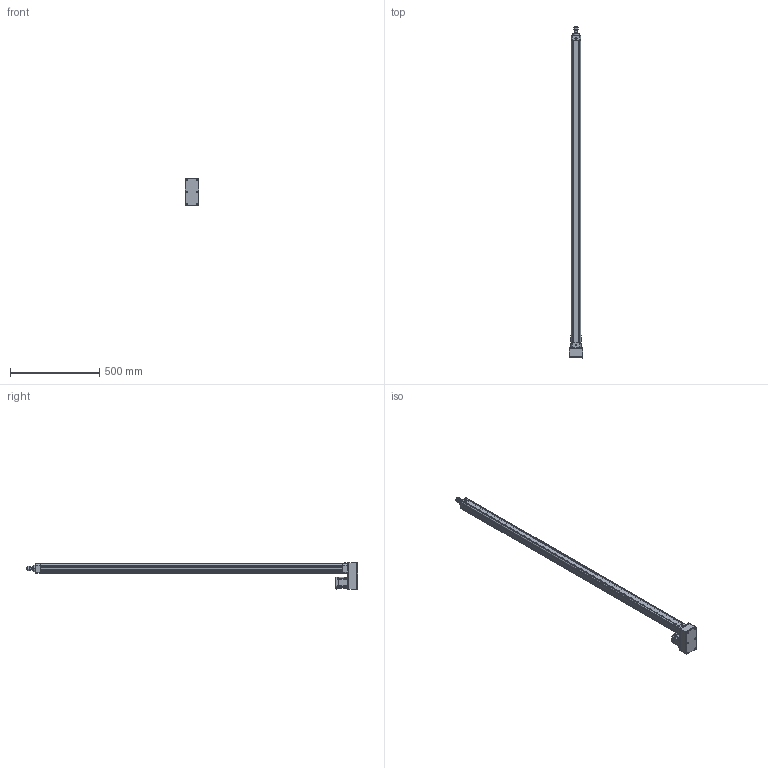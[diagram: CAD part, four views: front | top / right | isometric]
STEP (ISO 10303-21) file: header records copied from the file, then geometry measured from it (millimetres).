
FILE_DESCRIPTION((''),'2;1');
FILE_NAME('ASM0001_ASM','2020-04-07T',('ASUS20200'),(''),'CREO PARAMETRIC BY PTC INC, 2014190','CREO PARAMETRIC BY PTC INC, 2014190','');
FILE_SCHEMA(('CONFIG_CONTROL_DESIGN'));
Length unit declared in the file: millimetre
Products named in the file (23): HE40-D-P-001-X1; HE40-D-P-002-X1; HE40-D-P-003-X1; 6200ZZ; SLM-01; YZ-M6X1; JDB202820; HE40-P-010-X1-200W; _MHMF022L1A2; MHMF022L1A2M2_1_ASM; MHMF022L1A2M2_ASM; JX5X5X20; TD-5; M5X20; LM-M6X1; HE40-P-012-X2; HE40-P-014-X1; M4X65; HE40-D-P-005-X1; HE40-D-P-004-X1; HE40-D-P-008-X1; LGLM-M6-22; ASM0001_ASM
Assembly tree (39 placements, depth 4):
  ASM0001_ASM
    HE40-D-P-001-X1
    HE40-D-P-002-X1
    HE40-D-P-003-X1
    6200ZZ
    SLM-01
    YZ-M6X1
    JDB202820
    HE40-P-010-X1-200W
    MHMF022L1A2M2_ASM
      MHMF022L1A2M2_1_ASM
        _MHMF022L1A2
    JX5X5X20
    TD-5  x4
    M5X20  x4
    LM-M6X1  x4
    HE40-P-012-X2
    HE40-P-014-X1
    M4X65  x6
    HE40-D-P-005-X1
    HE40-D-P-004-X1
    HE40-D-P-008-X1
    LGLM-M6-22  x4
Bounding box: 75 x 1857.5 x 150.5 mm (x, y, z)
Volume: 2398865.4 mm3; surface area: 988894.9 mm2
Topology: 37 solids, 60 shells, 1851 faces, 4343 edges, 2662 vertices
Faces by surface type: plane 691, cylinder 531, cone 493, torus 110, sphere 22, bspline 4
Entity records: 44678 total; most frequent: CARTESIAN_POINT 8466, DIRECTION 8083, ORIENTED_EDGE 6978, EDGE_CURVE 3529, AXIS2_PLACEMENT_3D 3120, VERTEX_POINT 2181, VECTOR 1843, LINE 1843
